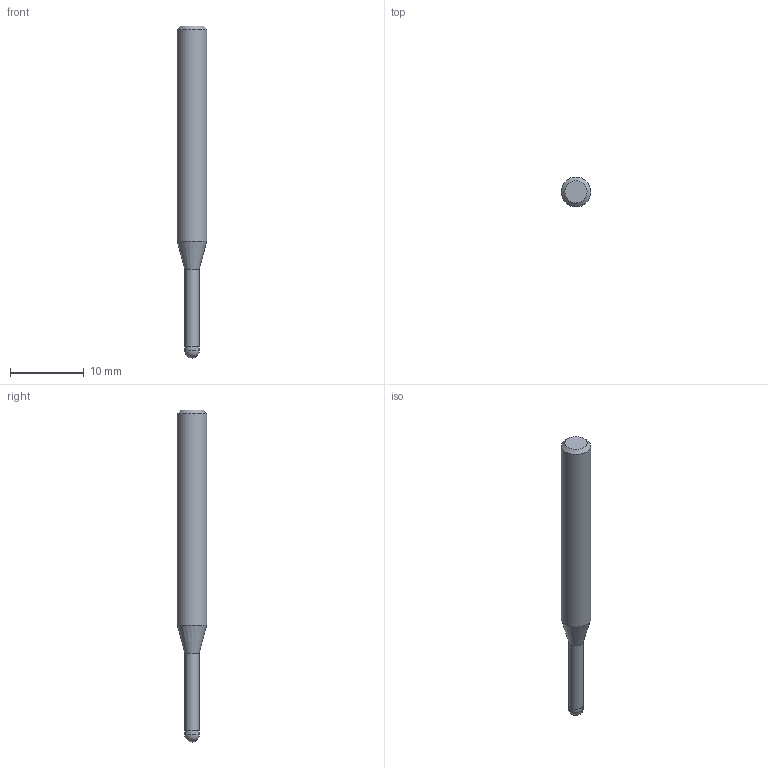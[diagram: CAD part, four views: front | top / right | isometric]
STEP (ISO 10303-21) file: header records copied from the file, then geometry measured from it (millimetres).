
FILE_DESCRIPTION((''),'2;1');
FILE_NAME('C:\Users\nsx150\AppData\Local\Temp\Mastercam 2021\QT8KEW0Y7J\TEMP.step','2021-04-23T11:21:35',(''),(''),'STEP Write','Mastercam 2021 ... CNC Software, Inc.','');
FILE_SCHEMA(('AUTOMOTIVE_DESIGN'));
Length unit declared in the file: millimetre
Products named in the file (1): None
Bounding box: 4 x 4 x 45 mm (x, y, z)
Volume: 427.3 mm3; surface area: 491.6 mm2
Topology: 2 solids, 2 shells, 9 faces, 14 edges, 8 vertices
Faces by surface type: plane 3, cylinder 3, cone 2, sphere 1
Full cylindrical faces by diameter (mm): 1.94 x1, 2 x1, 4 x1
Entity records: 211 total; most frequent: DIRECTION 36, CARTESIAN_POINT 25, AXIS2_PLACEMENT_3D 18, ORIENTED_EDGE 14, EDGE_LOOP 14, STYLED_ITEM 12, ADVANCED_FACE 9, FACE_BOUND 8
